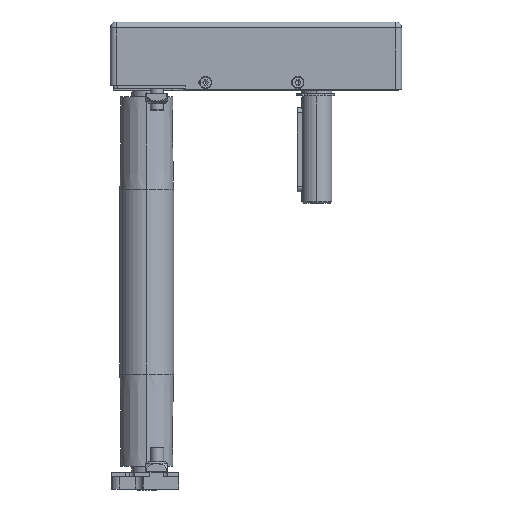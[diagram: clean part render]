
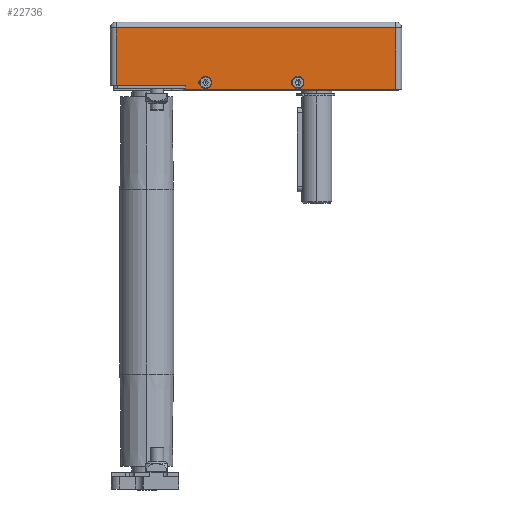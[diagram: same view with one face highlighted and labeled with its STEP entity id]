
A CAD part, left-side view. The second image highlights one B-rep face of the part: STEP entity #22736.
In plain terms, the highlighted planar face has unit normal (-1, 0, 0) as drawn and (1, 0, 0) by its records, which use the part's own axes.
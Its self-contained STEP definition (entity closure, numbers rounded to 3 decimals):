
#136 = CARTESIAN_POINT ( 'NONE',  ( 103.5, -170., 3.5 ) ) ;
#202 = DIRECTION ( 'NONE',  ( 1., 0., 0. ) ) ;
#672 = VECTOR ( 'NONE', #32916, 1000. ) ;
#1551 = CARTESIAN_POINT ( 'NONE',  ( 103.5, -55., 38.25 ) ) ;
#1788 = ORIENTED_EDGE ( 'NONE', *, *, #28497, .T. ) ;
#2139 = LINE ( 'NONE', #41281, #42620 ) ;
#2265 = DIRECTION ( 'NONE',  ( 0., 1., 0. ) ) ;
#2331 = VERTEX_POINT ( 'NONE', #30620 ) ;
#2728 = CARTESIAN_POINT ( 'NONE',  ( 103.5, -3.5, 38. ) ) ;
#2744 = CARTESIAN_POINT ( 'NONE',  ( 103.5, -57.5, 38.25 ) ) ;
#2893 = VERTEX_POINT ( 'NONE', #26773 ) ;
#2930 = CARTESIAN_POINT ( 'NONE',  ( 103.5, 15., 38. ) ) ;
#2976 = DIRECTION ( 'NONE',  ( 1., 0., 0. ) ) ;
#3498 = DIRECTION ( 'NONE',  ( 0., 1., 0. ) ) ;
#3508 = DIRECTION ( 'NONE',  ( 0., 1., 0. ) ) ;
#4213 = EDGE_CURVE ( 'NONE', #38362, #13295, #33856, .T. ) ;
#4438 = FACE_OUTER_BOUND ( 'NONE', #26449, .T. ) ;
#4535 = EDGE_CURVE ( 'NONE', #36130, #18184, #34863, .T. ) ;
#4578 = CARTESIAN_POINT ( 'NONE',  ( 103.5, -45., 40. ) ) ;
#4812 = CARTESIAN_POINT ( 'NONE',  ( 103.5, -110., 33.75 ) ) ;
#4822 = VERTEX_POINT ( 'NONE', #136 ) ;
#5315 = VECTOR ( 'NONE', #3498, 1000. ) ;
#5729 = AXIS2_PLACEMENT_3D ( 'NONE', #32555, #2976, #18896 ) ;
#6196 = LINE ( 'NONE', #1551, #38374 ) ;
#7171 = ORIENTED_EDGE ( 'NONE', *, *, #4213, .F. ) ;
#7400 = LINE ( 'NONE', #10263, #672 ) ;
#7687 = AXIS2_PLACEMENT_3D ( 'NONE', #21738, #31910, #18396 ) ;
#8155 = CARTESIAN_POINT ( 'NONE',  ( 103.5, 0., 3.5 ) ) ;
#8503 = VERTEX_POINT ( 'NONE', #36872 ) ;
#9060 = CARTESIAN_POINT ( 'NONE',  ( 103.5, -110., 36. ) ) ;
#9074 = EDGE_CURVE ( 'NONE', #2331, #4822, #7400, .T. ) ;
#9376 = CARTESIAN_POINT ( 'NONE',  ( 103.5, -3.5, 3.5 ) ) ;
#9789 = VERTEX_POINT ( 'NONE', #19481 ) ;
#10263 = CARTESIAN_POINT ( 'NONE',  ( 103.5, -170., 40. ) ) ;
#10315 = ORIENTED_EDGE ( 'NONE', *, *, #25675, .F. ) ;
#10867 = EDGE_CURVE ( 'NONE', #13295, #2893, #25396, .T. ) ;
#10869 = CARTESIAN_POINT ( 'NONE',  ( 103.5, -57.5, 33.75 ) ) ;
#10899 = CARTESIAN_POINT ( 'NONE',  ( 103.5, -45., 38. ) ) ;
#11096 = CIRCLE ( 'NONE', #5729, 2.25 ) ;
#11227 = VECTOR ( 'NONE', #32677, 1000. ) ;
#11328 = DIRECTION ( 'NONE',  ( 0., 1., 0. ) ) ;
#11379 = VERTEX_POINT ( 'NONE', #35826 ) ;
#11677 = ORIENTED_EDGE ( 'NONE', *, *, #31105, .F. ) ;
#11769 = VECTOR ( 'NONE', #11328, 1000. ) ;
#11891 = VERTEX_POINT ( 'NONE', #18942 ) ;
#11955 = AXIS2_PLACEMENT_3D ( 'NONE', #27312, #202, #23369 ) ;
#12516 = ORIENTED_EDGE ( 'NONE', *, *, #36739, .F. ) ;
#13295 = VERTEX_POINT ( 'NONE', #32536 ) ;
#13579 = CIRCLE ( 'NONE', #11955, 2.25 ) ;
#13686 = CARTESIAN_POINT ( 'NONE',  ( 103.5, -112.5, 36. ) ) ;
#14152 = EDGE_LOOP ( 'NONE', ( #35748, #28728, #38862, #7171, #10315 ) ) ;
#14874 = AXIS2_PLACEMENT_3D ( 'NONE', #33385, #26575, #3508 ) ;
#14897 = LINE ( 'NONE', #10899, #31516 ) ;
#15270 = VERTEX_POINT ( 'NONE', #18398 ) ;
#16532 = ORIENTED_EDGE ( 'NONE', *, *, #16827, .T. ) ;
#16566 = EDGE_LOOP ( 'NONE', ( #12516, #19648, #18902, #21528, #21184 ) ) ;
#16827 = EDGE_CURVE ( 'NONE', #41923, #30628, #2139, .T. ) ;
#16931 = LINE ( 'NONE', #19027, #11227 ) ;
#16978 = DIRECTION ( 'NONE',  ( 1., 0., 0. ) ) ;
#18184 = VERTEX_POINT ( 'NONE', #42759 ) ;
#18281 = ORIENTED_EDGE ( 'NONE', *, *, #9074, .T. ) ;
#18396 = DIRECTION ( 'NONE',  ( 0., 1., 0. ) ) ;
#18398 = CARTESIAN_POINT ( 'NONE',  ( 103.5, -55., 38.25 ) ) ;
#18896 = DIRECTION ( 'NONE',  ( 0., 1., 0. ) ) ;
#18902 = ORIENTED_EDGE ( 'NONE', *, *, #4535, .F. ) ;
#18942 = CARTESIAN_POINT ( 'NONE',  ( 103.5, -110., 38.25 ) ) ;
#18974 = CARTESIAN_POINT ( 'NONE',  ( 103.5, 0., 40. ) ) ;
#19027 = CARTESIAN_POINT ( 'NONE',  ( 103.5, 0., 40. ) ) ;
#19031 = VECTOR ( 'NONE', #42354, 1000. ) ;
#19201 = EDGE_CURVE ( 'NONE', #2331, #31027, #16931, .T. ) ;
#19481 = CARTESIAN_POINT ( 'NONE',  ( 103.5, -112.5, 33.75 ) ) ;
#19522 = EDGE_CURVE ( 'NONE', #8503, #9789, #19638, .T. ) ;
#19638 = CIRCLE ( 'NONE', #33164, 2.25 ) ;
#19648 = ORIENTED_EDGE ( 'NONE', *, *, #32427, .F. ) ;
#20320 = DIRECTION ( 'NONE',  ( 0., 1., 0. ) ) ;
#20493 = FACE_BOUND ( 'NONE', #14152, .T. ) ;
#20625 = DIRECTION ( 'NONE',  ( 0., 0., -1. ) ) ;
#21184 = ORIENTED_EDGE ( 'NONE', *, *, #19522, .F. ) ;
#21528 = ORIENTED_EDGE ( 'NONE', *, *, #35080, .F. ) ;
#21738 = CARTESIAN_POINT ( 'NONE',  ( 103.5, -110., 36. ) ) ;
#22736 = ADVANCED_FACE ( 'NONE', ( #32943, #20493, #4438 ), #25230, .F. ) ;
#23369 = DIRECTION ( 'NONE',  ( 0., 1., 0. ) ) ;
#23401 = VECTOR ( 'NONE', #31398, 1000. ) ;
#24042 = DIRECTION ( 'NONE',  ( 0., -1., 0. ) ) ;
#25230 = PLANE ( 'NONE',  #40783 ) ;
#25396 = CIRCLE ( 'NONE', #14874, 2.25 ) ;
#25643 = DIRECTION ( 'NONE',  ( 0., -1., 0. ) ) ;
#25675 = EDGE_CURVE ( 'NONE', #29231, #38362, #13579, .T. ) ;
#26221 = LINE ( 'NONE', #40599, #32958 ) ;
#26330 = LINE ( 'NONE', #2930, #19031 ) ;
#26449 = EDGE_LOOP ( 'NONE', ( #16532, #11677, #36726, #30023, #18281, #1788 ) ) ;
#26575 = DIRECTION ( 'NONE',  ( 1., 0., 0. ) ) ;
#26773 = CARTESIAN_POINT ( 'NONE',  ( 103.5, -52.75, 36. ) ) ;
#27312 = CARTESIAN_POINT ( 'NONE',  ( 103.5, -57.5, 36. ) ) ;
#28448 = DIRECTION ( 'NONE',  ( -1., 0., 0. ) ) ;
#28497 = EDGE_CURVE ( 'NONE', #4822, #41923, #41067, .T. ) ;
#28728 = ORIENTED_EDGE ( 'NONE', *, *, #37682, .F. ) ;
#29231 = VERTEX_POINT ( 'NONE', #2744 ) ;
#30023 = ORIENTED_EDGE ( 'NONE', *, *, #19201, .F. ) ;
#30620 = CARTESIAN_POINT ( 'NONE',  ( 103.5, -170., 40. ) ) ;
#30628 = VERTEX_POINT ( 'NONE', #2728 ) ;
#31027 = VERTEX_POINT ( 'NONE', #4578 ) ;
#31105 = EDGE_CURVE ( 'NONE', #11379, #30628, #26330, .T. ) ;
#31398 = DIRECTION ( 'NONE',  ( 0., 1., 0. ) ) ;
#31516 = VECTOR ( 'NONE', #20625, 1000. ) ;
#31910 = DIRECTION ( 'NONE',  ( 1., 0., 0. ) ) ;
#32427 = EDGE_CURVE ( 'NONE', #18184, #11891, #38194, .T. ) ;
#32536 = CARTESIAN_POINT ( 'NONE',  ( 103.5, -55., 33.75 ) ) ;
#32555 = CARTESIAN_POINT ( 'NONE',  ( 103.5, -55., 36. ) ) ;
#32677 = DIRECTION ( 'NONE',  ( 0., 1., 0. ) ) ;
#32916 = DIRECTION ( 'NONE',  ( 0., 0., -1. ) ) ;
#32943 = FACE_BOUND ( 'NONE', #16566, .T. ) ;
#32958 = VECTOR ( 'NONE', #24042, 1000. ) ;
#33164 = AXIS2_PLACEMENT_3D ( 'NONE', #13686, #16978, #20320 ) ;
#33385 = CARTESIAN_POINT ( 'NONE',  ( 103.5, -55., 36. ) ) ;
#33856 = LINE ( 'NONE', #40196, #5315 ) ;
#34016 = CARTESIAN_POINT ( 'NONE',  ( 103.5, -110., 33.75 ) ) ;
#34461 = DIRECTION ( 'NONE',  ( 0., 0., 1. ) ) ;
#34601 = DIRECTION ( 'NONE',  ( 0., -1., 0. ) ) ;
#34863 = CIRCLE ( 'NONE', #7687, 2.25 ) ;
#34968 = EDGE_CURVE ( 'NONE', #31027, #11379, #14897, .T. ) ;
#35080 = EDGE_CURVE ( 'NONE', #9789, #36130, #37723, .T. ) ;
#35748 = ORIENTED_EDGE ( 'NONE', *, *, #40173, .F. ) ;
#35826 = CARTESIAN_POINT ( 'NONE',  ( 103.5, -45., 38. ) ) ;
#36130 = VERTEX_POINT ( 'NONE', #34016 ) ;
#36726 = ORIENTED_EDGE ( 'NONE', *, *, #34968, .F. ) ;
#36739 = EDGE_CURVE ( 'NONE', #11891, #8503, #26221, .T. ) ;
#36872 = CARTESIAN_POINT ( 'NONE',  ( 103.5, -112.5, 38.25 ) ) ;
#37682 = EDGE_CURVE ( 'NONE', #2893, #15270, #11096, .T. ) ;
#37723 = LINE ( 'NONE', #4812, #11769 ) ;
#38194 = CIRCLE ( 'NONE', #39488, 2.25 ) ;
#38362 = VERTEX_POINT ( 'NONE', #10869 ) ;
#38374 = VECTOR ( 'NONE', #34601, 1000. ) ;
#38666 = DIRECTION ( 'NONE',  ( 1., 0., 0. ) ) ;
#38862 = ORIENTED_EDGE ( 'NONE', *, *, #10867, .F. ) ;
#39488 = AXIS2_PLACEMENT_3D ( 'NONE', #9060, #38666, #2265 ) ;
#40173 = EDGE_CURVE ( 'NONE', #15270, #29231, #6196, .T. ) ;
#40196 = CARTESIAN_POINT ( 'NONE',  ( 103.5, -55., 33.75 ) ) ;
#40599 = CARTESIAN_POINT ( 'NONE',  ( 103.5, -110., 38.25 ) ) ;
#40783 = AXIS2_PLACEMENT_3D ( 'NONE', #18974, #28448, #25643 ) ;
#41067 = LINE ( 'NONE', #8155, #23401 ) ;
#41281 = CARTESIAN_POINT ( 'NONE',  ( 103.5, -3.5, 40. ) ) ;
#41923 = VERTEX_POINT ( 'NONE', #9376 ) ;
#42354 = DIRECTION ( 'NONE',  ( 0., 1., 0. ) ) ;
#42620 = VECTOR ( 'NONE', #34461, 1000. ) ;
#42759 = CARTESIAN_POINT ( 'NONE',  ( 103.5, -107.75, 36. ) ) ;
